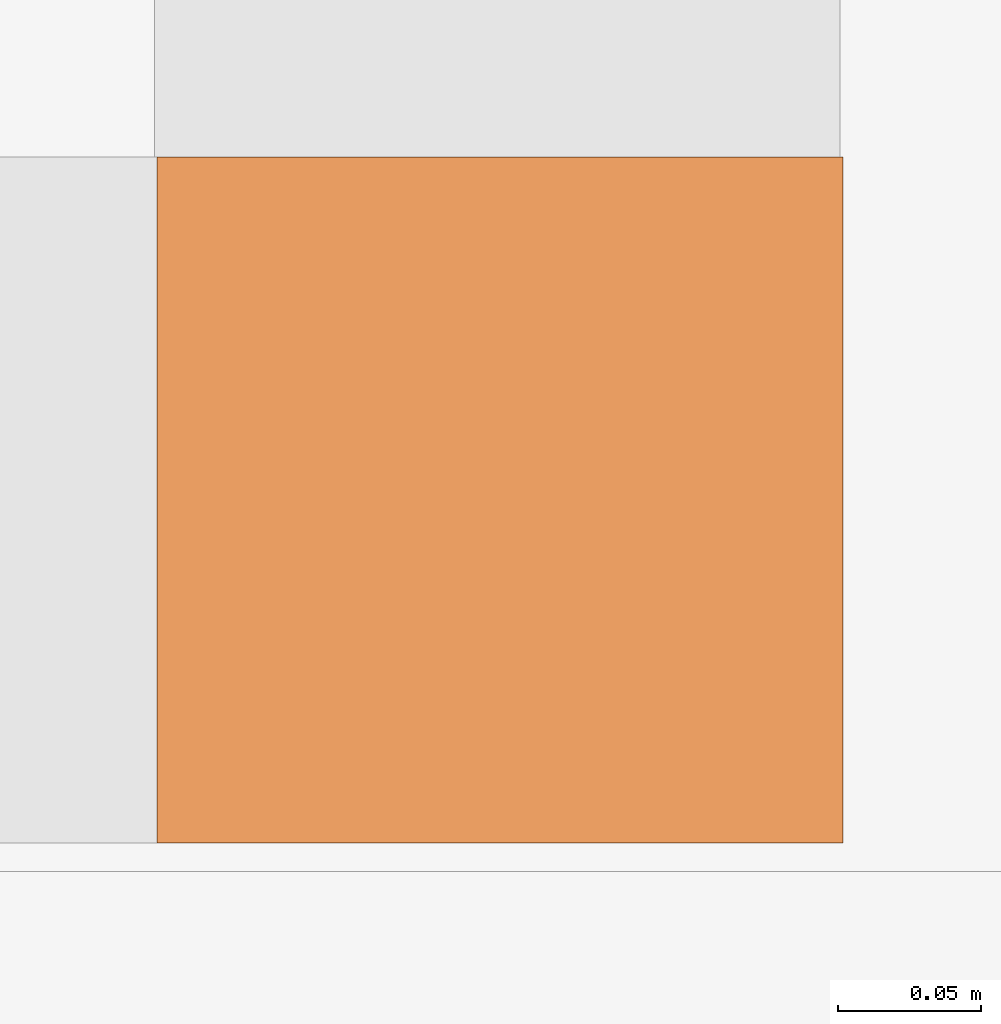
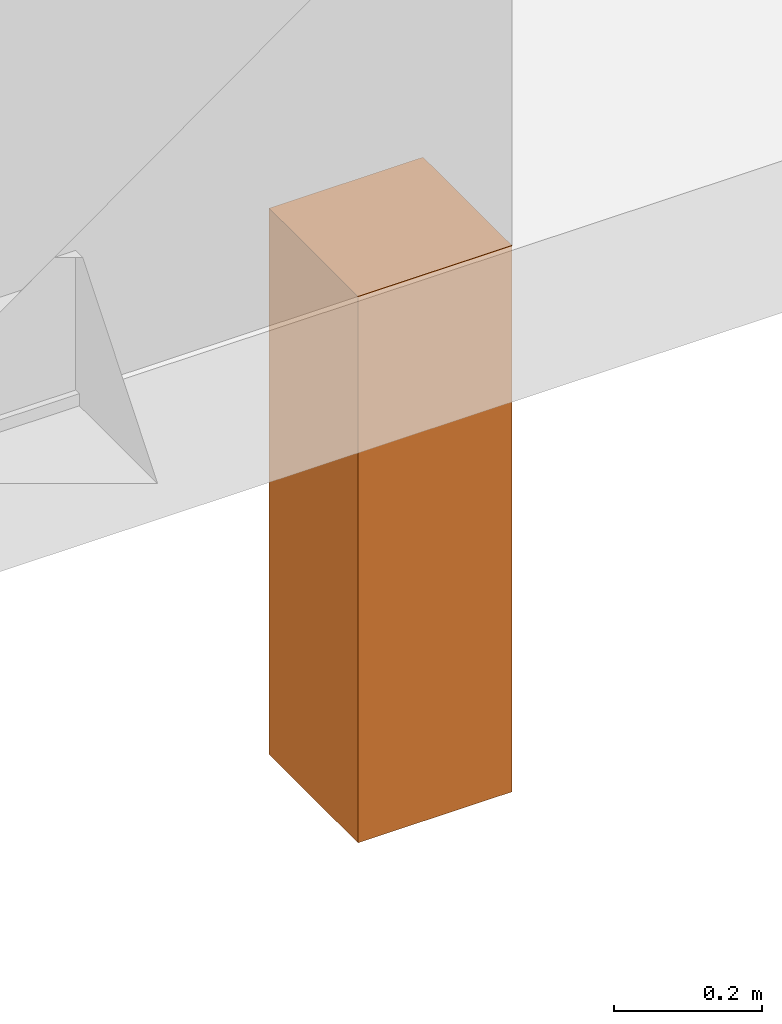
# One storey, part 14 of 14: 1 proxy.
"""IFC2X3 building model written with IfcOpenShell, lengths in metres."""

from ifc_helpers import new_model, entity, si_unit, converted_unit, direction, frame, frame_2d, origin, place, context, subcontext, project, spatial, rectangle, extrude, source, transform, mapped, material, type_object, type_shapes, element, save


model = new_model("IFC2X3")

# Units and contexts
model_context = context("Model", 3, precision=1e-05, world=frame((30.086303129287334, 2.687674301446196, 462.0)), true_north=direction((0.19008937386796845, 0.9817667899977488)))
body_context = subcontext(model_context, "Body", "Model", "MODEL_VIEW")
ifc_project = project(units=[si_unit("LENGTHUNIT", "METRE"), si_unit("AREAUNIT", "SQUARE_METRE"), converted_unit("PLANEANGLEUNIT", "DEGREE", entity("IfcPlaneAngleMeasure", 0.017453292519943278), si_unit("PLANEANGLEUNIT", "RADIAN"), dimensions=[0, 0, 0, 0, 0, 0, 0]), si_unit("VOLUMEUNIT", "CUBIC_METRE")], contexts=[model_context])

# Site, building, storey
site_placement = place(None, origin())
site = spatial("IfcSite", under=ifc_project, at=site_placement, Name="Default", CompositionType="ELEMENT")
building_placement = place(site_placement, origin())
building = spatial("IfcBuilding", under=site, at=building_placement, CompositionType="ELEMENT")
storey_placement = place(building_placement, origin())
storey = spatial("IfcBuildingStorey", under=building, at=storey_placement, Name="FB_E00_OKFB", CompositionType="ELEMENT", Elevation=0.0)

# Proxy
ifc_material = material(Name="<Unnamed>")
building_element_proxy_type = type_object("IfcBuildingElementProxyType", Name="WS_VOI_REC:WS_VOI_REC", PredefinedType="NOTDEFINED", material=ifc_material)
shared_shape = source(origin(), body_context, "Body", "SweptSolid", [
    extrude(rectangle(XDim=0.2399999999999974, YDim=0.23999972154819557, at=frame_2d((4.336808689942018e-15, -2.1649348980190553e-15), x_axis=(1.0, 0.0))), frame((44.401304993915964, -14.10464886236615, -0.12000000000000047), z_axis=(0.0, 0.0, 1.0), x_axis=(-1.0, 0.0, 0.0)), (0.0, 0.0, 1.0), 0.8999999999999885),
])
type_shapes(building_element_proxy_type, [shared_shape])
proxy_placement = place(storey_placement, origin())
element("IfcBuildingElementProxy", 1, at=proxy_placement, inside=storey, type_object=building_element_proxy_type, material=ifc_material, Name="WS_VOI_REC:WS_VOI_REC", ObjectType="WS_VOI_REC:WS_VOI_REC", context=body_context, shape_type="MappedRepresentation", body=[
    mapped(shared_shape, transform((0.0, 0.0, 0.0), scale=1.0)),
])

save(model, "model.ifc")
